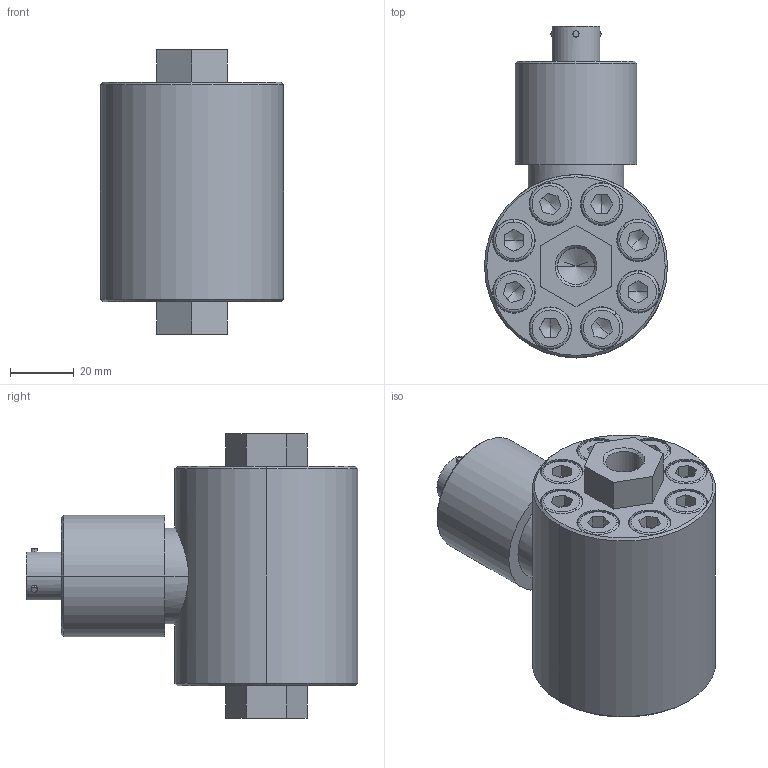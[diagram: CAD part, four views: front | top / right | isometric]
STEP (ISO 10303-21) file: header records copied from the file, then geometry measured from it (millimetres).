
FILE_DESCRIPTION(('STEP AP214'),'1');
FILE_NAME('burster_8315-200_9byjht5xp6p1d9haw6fh0hp1z.stp','2017-04-20T13:15:31',('TraceParts'),('TraceParts S.A.'),'Spatial InterOp 3D',' ',' ');
FILE_SCHEMA(('automotive_design'));
Length unit declared in the file: millimetre
Products named in the file (1): burster_8315-200_9byjht5xp6p1d9haw6fh0hp1z
Bounding box: 57.2 x 103.7 x 88.9 mm (x, y, z)
Volume: 215109.5 mm3; surface area: 40304 mm2
Topology: 1 solids, 17 shells, 449 faces, 1140 edges, 710 vertices
Faces by surface type: plane 167, cylinder 128, cone 110, torus 32, sphere 12
Entity records: 16684 total; most frequent: CARTESIAN_POINT 2628, DIRECTION 2282, ORIENTED_EDGE 2120, EDGE_CURVE 1060, AXIS2_PLACEMENT_3D 908, VERTEX_POINT 710, EDGE_LOOP 514, LINE 466
